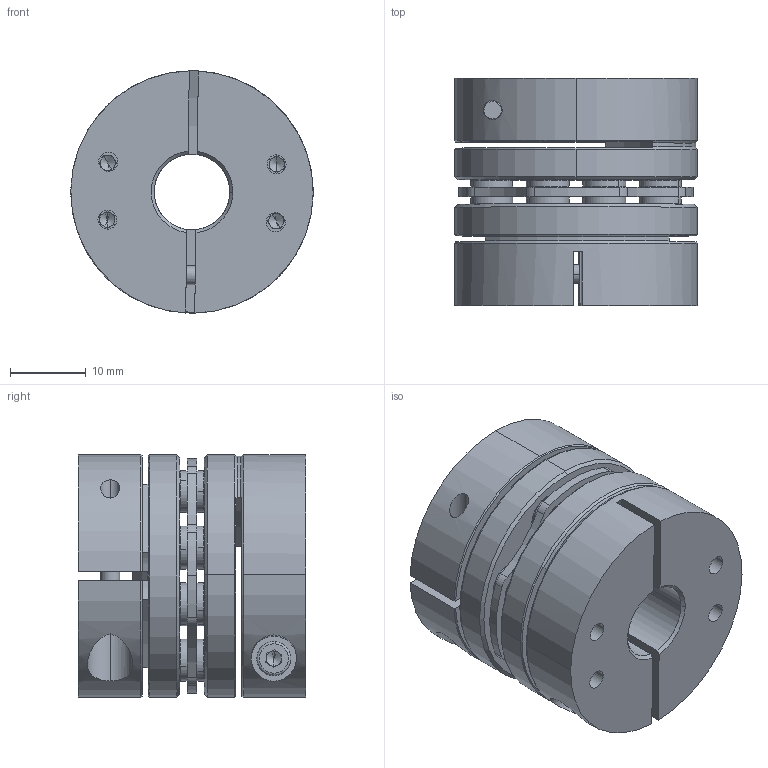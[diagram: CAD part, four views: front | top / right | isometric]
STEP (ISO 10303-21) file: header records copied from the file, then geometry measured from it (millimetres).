
FILE_DESCRIPTION (( 'STEP AP203' ), '1' );
FILE_NAME ('LDG-32-B1-10-10.STEP', '2021-10-28T05:15:05', ( '' ), ( '' ), 'SwSTEP 2.0', 'SolidWorks 2018', '' );
FILE_SCHEMA (( 'CONFIG_CONTROL_DESIGN' ));
Length unit declared in the file: millimetre
Products named in the file (2): LDG-32-B1-10-10; 錨璃5^LDG-32蚾饜芞1
Assembly tree (1 placements, depth 2):
  LDG-32-B1-10-10
    錨璃5^LDG-32蚾饜芞1
Bounding box: 32 x 30 x 32 mm (x, y, z)
Volume: 17828.2 mm3; surface area: 13208.9 mm2
Topology: 1 solids, 11 shells, 795 faces, 1967 edges, 1216 vertices
Faces by surface type: cylinder 301, plane 244, cone 230, torus 20
Entity records: 24191 total; most frequent: CARTESIAN_POINT 4472, DIRECTION 4465, ORIENTED_EDGE 3878, EDGE_CURVE 1939, AXIS2_PLACEMENT_3D 1819, VERTEX_POINT 1216, CIRCLE 1020, EDGE_LOOP 939
